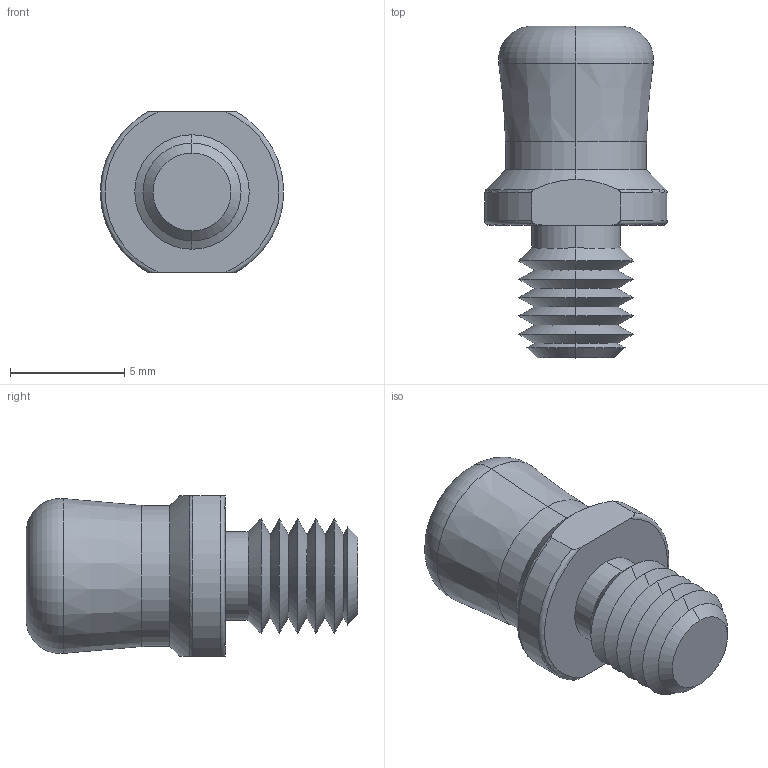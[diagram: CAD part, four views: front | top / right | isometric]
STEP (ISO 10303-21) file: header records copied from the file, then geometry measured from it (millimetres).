
FILE_DESCRIPTION (( 'STEP AP203' ), '1' );
FILE_NAME ('33923.W0008.step', '2018-04-08T13:28:58', ( '' ), ( '' ), 'SwSTEP 2.0', 'SolidWorks 2017', '' );
FILE_SCHEMA (( 'CONFIG_CONTROL_DESIGN' ));
Length unit declared in the file: millimetre
Products named in the file (1): 33923.W0008
Bounding box: 7.99 x 14.5 x 7 mm (x, y, z)
Volume: 386.6 mm3; surface area: 390.8 mm2
Topology: 1 solids, 1 shells, 45 faces, 96 edges, 54 vertices
Faces by surface type: cone 28, cylinder 6, torus 6, plane 5
Entity records: 1323 total; most frequent: CARTESIAN_POINT 270, DIRECTION 222, ORIENTED_EDGE 192, EDGE_CURVE 96, AXIS2_PLACEMENT_3D 92, VERTEX_POINT 54, EDGE_LOOP 46, CIRCLE 46
